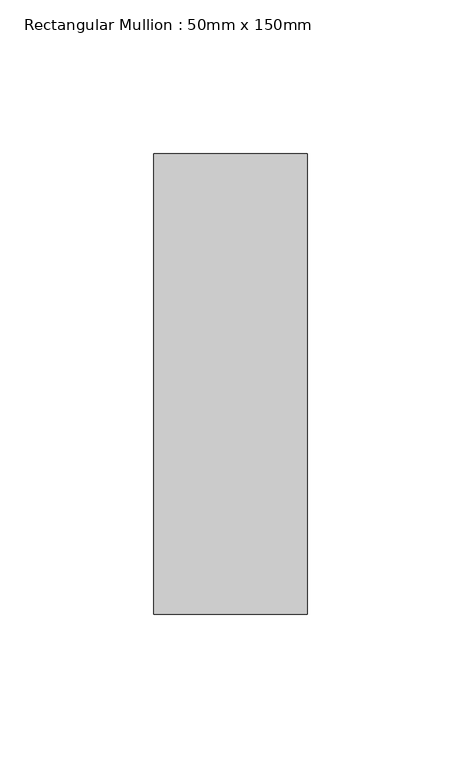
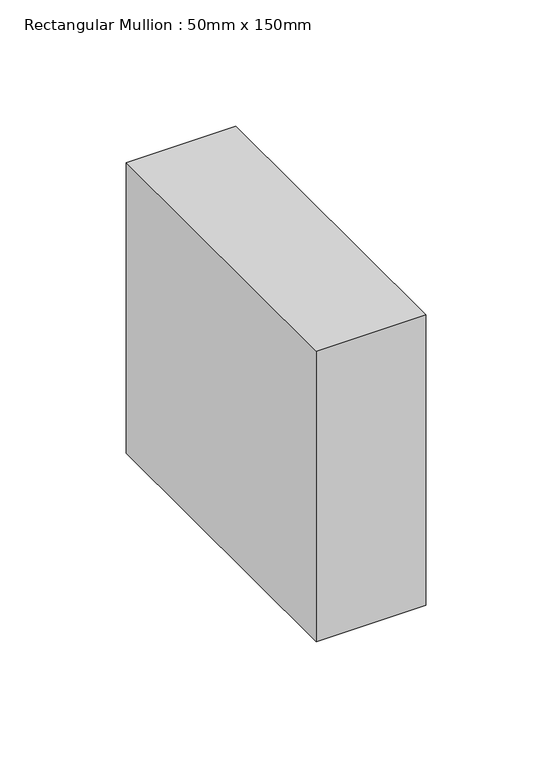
"""IFC4 building model written with IfcOpenShell, lengths in millimetres: member geometry, Rectangular Mullion : 50mm x 150mm."""

from ifc_helpers import new_model, si_unit, frame, origin, place, context, project, spatial, polyline, outline, extrude, source, transform, mapped, element, save


def rectangular_mullion_50mm_x_150mm_9f3c5d86(model_context):
    return source(origin(), model_context, "Body", "SweptSolid", [
        extrude(outline(polyline([(0.0, 75.0), (0.0, -75.0), (-50.0, -75.0), (-50.0, 75.0), (0.0, 75.0)])), frame((0.0, 0.0, -140.2822195), z_axis=(0.0, 0.0, 1.0), x_axis=(1.0, 0.0, 0.0)), (0.0, 0.0, 1.0), 140.2822195),
    ])


if __name__ == "__main__":
    model = new_model("IFC4")
    model_context = context("Model", 3, world=origin())
    ifc_project = project(units=[si_unit("LENGTHUNIT", "METRE", prefix="MILLI")], contexts=[model_context])
    site = spatial("IfcSite", under=ifc_project)
    building = spatial("IfcBuilding", under=site)
    placement = place(None, origin())
    rectangular_mullion_50mm_x_150mm_shape = rectangular_mullion_50mm_x_150mm_9f3c5d86(model_context)
    element("IfcMember", 1, ObjectType="Rectangular Mullion : 50mm x 150mm", at=placement, inside=building, context=model_context, shape_type="MappedRepresentation", body=[
        mapped(rectangular_mullion_50mm_x_150mm_shape, transform((0.0, 0.0, 0.0), x_axis=(1.0, 0.0, 0.0), y_axis=(0.0, 1.0, 0.0), z_axis=(0.0, 0.0, 1.0))),
    ])
    save(model, "model.ifc")
